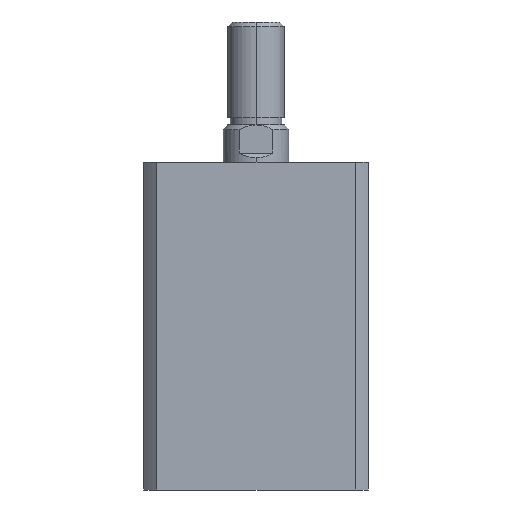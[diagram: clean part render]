
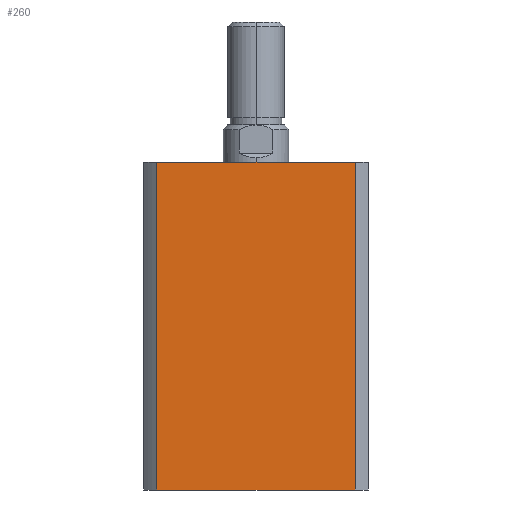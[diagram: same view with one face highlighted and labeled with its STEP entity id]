
A CAD part, left-side view. The second image highlights one B-rep face of the part: STEP entity #260.
In plain terms, the highlighted planar face has unit normal (-1, 0, 0).
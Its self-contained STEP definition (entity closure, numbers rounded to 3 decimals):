
#260 = ADVANCED_FACE ( 'NONE', ( #3480 ), #1435, .F. ) ;
#370 = CARTESIAN_POINT ( 'NONE',  ( -24., 0., 70. ) ) ;
#371 = DIRECTION ( 'NONE',  ( 0., -1., 0. ) ) ;
#858 = EDGE_LOOP ( 'NONE', ( #970, #969, #968, #967 ) ) ;
#967 = ORIENTED_EDGE ( 'NONE', *, *, #2660, .T. ) ;
#968 = ORIENTED_EDGE ( 'NONE', *, *, #4374, .F. ) ;
#969 = ORIENTED_EDGE ( 'NONE', *, *, #2658, .F. ) ;
#970 = ORIENTED_EDGE ( 'NONE', *, *, #2657, .T. ) ;
#1014 = VERTEX_POINT ( 'NONE', #1651 ) ;
#1028 = VERTEX_POINT ( 'NONE', #1665 ) ;
#1047 = VERTEX_POINT ( 'NONE', #1684 ) ;
#1199 = VERTEX_POINT ( 'NONE', #1957 ) ;
#1430 = CARTESIAN_POINT ( 'NONE',  ( -24., 0., 70. ) ) ;
#1435 = PLANE ( 'NONE',  #4784 ) ;
#1438 = DIRECTION ( 'NONE',  ( 1., 0., 0. ) ) ;
#1439 = DIRECTION ( 'NONE',  ( 0., 0., -1. ) ) ;
#1651 = CARTESIAN_POINT ( 'NONE',  ( -24., -21.166, 0. ) ) ;
#1665 = CARTESIAN_POINT ( 'NONE',  ( -24., -21.166, 70. ) ) ;
#1684 = CARTESIAN_POINT ( 'NONE',  ( -24., 21.166, 0. ) ) ;
#1957 = CARTESIAN_POINT ( 'NONE',  ( -24., 21.166, 70. ) ) ;
#2067 = CARTESIAN_POINT ( 'NONE',  ( -24., 0., 0. ) ) ;
#2074 = DIRECTION ( 'NONE',  ( 0., -1., 0. ) ) ;
#2079 = CARTESIAN_POINT ( 'NONE',  ( -24., -21.166, 70. ) ) ;
#2083 = CARTESIAN_POINT ( 'NONE',  ( -24., 21.166, 70. ) ) ;
#2084 = DIRECTION ( 'NONE',  ( 0., 0., -1. ) ) ;
#2088 = DIRECTION ( 'NONE',  ( 0., 0., -1. ) ) ;
#2657 = EDGE_CURVE ( 'NONE', #1047, #1014, #3649, .T. ) ;
#2658 = EDGE_CURVE ( 'NONE', #1028, #1014, #3648, .T. ) ;
#2660 = EDGE_CURVE ( 'NONE', #1199, #1047, #3652, .T. ) ;
#3480 = FACE_OUTER_BOUND ( 'NONE', #858, .T. ) ;
#3648 = LINE ( 'NONE', #2079, #3653 ) ;
#3649 = LINE ( 'NONE', #2067, #3651 ) ;
#3651 = VECTOR ( 'NONE', #2074, 1000. ) ;
#3652 = LINE ( 'NONE', #2083, #3657 ) ;
#3653 = VECTOR ( 'NONE', #2084, 1000. ) ;
#3657 = VECTOR ( 'NONE', #2088, 1000. ) ;
#4081 = LINE ( 'NONE', #370, #4083 ) ;
#4083 = VECTOR ( 'NONE', #371, 1000. ) ;
#4374 = EDGE_CURVE ( 'NONE', #1199, #1028, #4081, .T. ) ;
#4784 = AXIS2_PLACEMENT_3D ( 'NONE', #1430, #1438, #1439 ) ;
